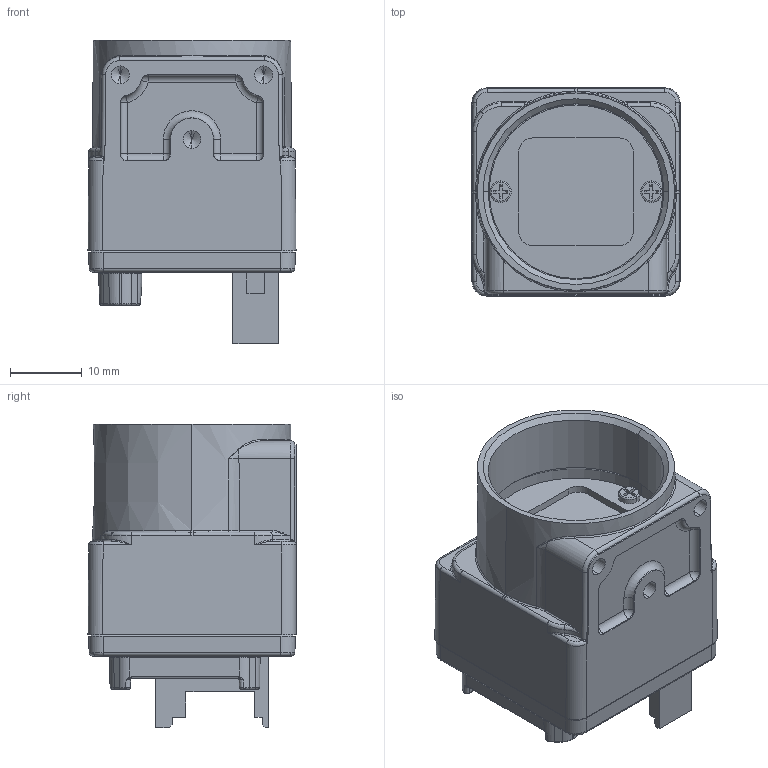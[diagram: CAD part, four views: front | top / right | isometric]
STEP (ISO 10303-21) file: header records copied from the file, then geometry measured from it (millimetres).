
FILE_DESCRIPTION (( 'STEP AP214' ), '1' );
FILE_NAME ('BU1207MG-1503180302.STEP', '2021-10-21T04:36:19', ( '' ), ( '' ), 'SwSTEP 2.0', 'SolidWorks 2017', '' );
FILE_SCHEMA (( 'AUTOMOTIVE_DESIGN' ));
Length unit declared in the file: millimetre
Products named in the file (1): BU1207MG-1503180302
Bounding box: 29 x 29 x 42.25 mm (x, y, z)
Volume: 19163.9 mm3; surface area: 8887.1 mm2
Topology: 4 solids, 4 shells, 1701 faces, 4564 edges, 2906 vertices
Faces by surface type: plane 1110, cylinder 349, bspline 161, torus 38, cone 35, sphere 8
Entity records: 74493 total; most frequent: CARTESIAN_POINT 15871, ORIENTED_EDGE 9064, DIRECTION 7140, EDGE_CURVE 4532, LINE 3044, VECTOR 3044, VERTEX_POINT 2906, AXIS2_PLACEMENT_3D 2048
